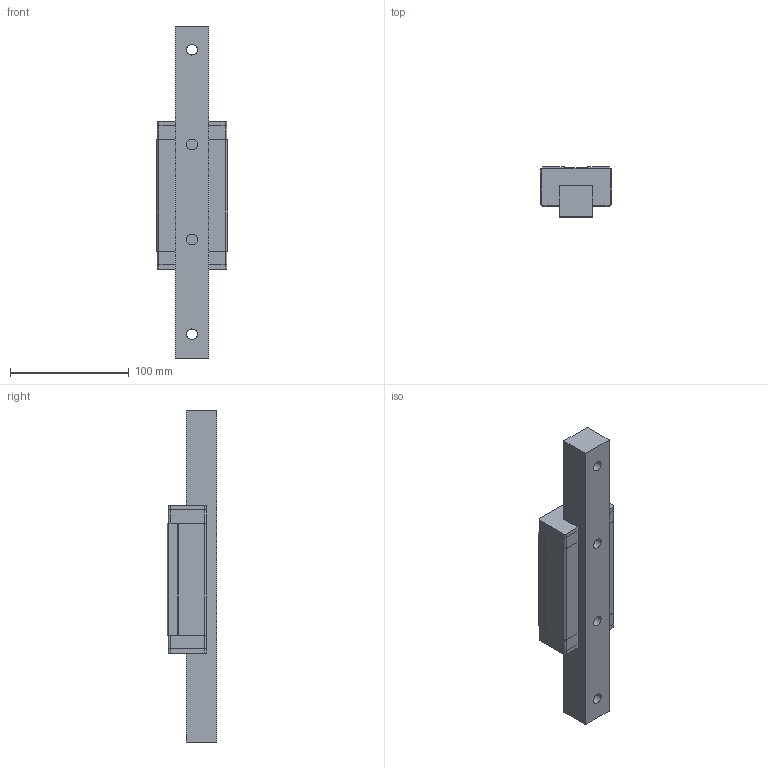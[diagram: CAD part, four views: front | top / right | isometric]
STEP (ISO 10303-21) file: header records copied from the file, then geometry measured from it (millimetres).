
FILE_DESCRIPTION((''),'2;1');
FILE_NAME('E:\PDF郪磁芞\DFS-B\DFS30BL.STP','2018-01-31T12:46:55',(''),(''),'STEP Write','Mastercam V9 ... CNC Software, Inc.','');
FILE_SCHEMA(('CONFIG_CONTROL_DESIGN'));
Length unit declared in the file: millimetre
Bounding box: 60 x 42 x 280 mm (x, y, z)
Volume: 372692 mm3; surface area: 76913.8 mm2
Topology: 6 solids, 6 shells, 102 faces, 457 edges, 574 vertices
Faces by surface type: plane 74, cylinder 28
Full cylindrical faces by diameter (mm): 7.3 x4, 9 x4, 14 x4
Entity records: 4316 total; most frequent: CARTESIAN_POINT 955, DIRECTION 750, ORIENTED_EDGE 468, VECTOR 320, LINE 320, EDGE_CURVE 234, AXIS2_PLACEMENT_3D 215, TRIMMED_CURVE 199
